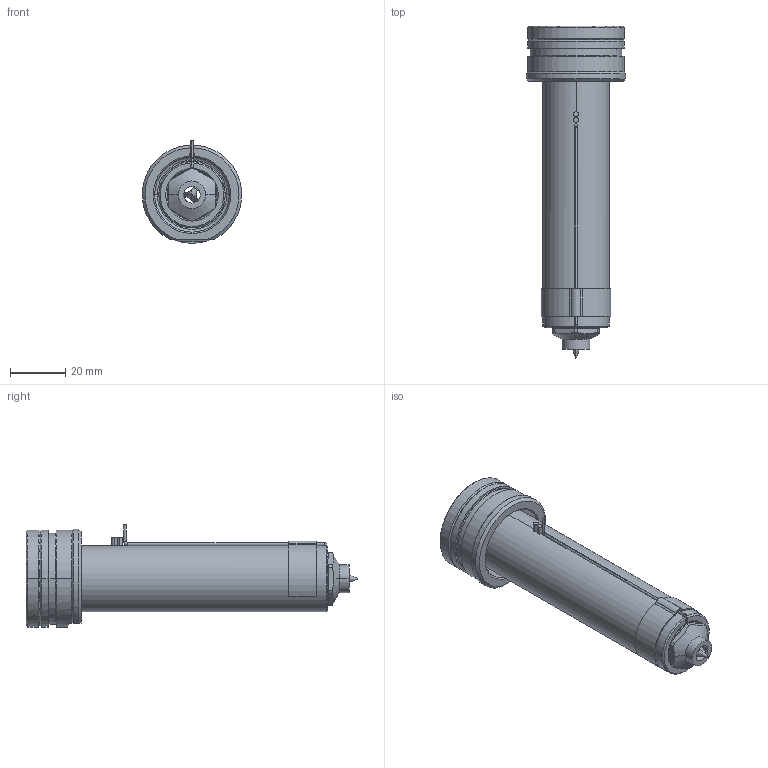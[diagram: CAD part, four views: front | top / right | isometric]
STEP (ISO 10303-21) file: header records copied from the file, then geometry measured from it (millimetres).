
FILE_DESCRIPTION((''),'2;1');
FILE_NAME('EO06_PG-BL_STD_100_SW','2024-02-19T11:01:45',('sundharh'),(''),'CREO PARAMETRIC BY PTC INC, 2023154','CREO PARAMETRIC BY PTC INC, 2023154','');
FILE_SCHEMA(('CONFIG_CONTROL_DESIGN'));
Length unit declared in the file: millimetre
Products named in the file (1): EO06_PG-BL_STD_100_SW
Bounding box: 35.93 x 120 x 37 mm (x, y, z)
Volume: 55885.7 mm3; surface area: 17010.9 mm2
Topology: 2 solids, 2 shells, 204 faces, 552 edges, 339 vertices
Faces by surface type: cylinder 83, plane 54, cone 38, torus 21, bspline 6, sphere 2
Entity records: 7423 total; most frequent: CARTESIAN_POINT 2211, DIRECTION 1145, ORIENTED_EDGE 1088, EDGE_CURVE 544, AXIS2_PLACEMENT_3D 481, VERTEX_POINT 339, CIRCLE 283, EDGE_LOOP 219
